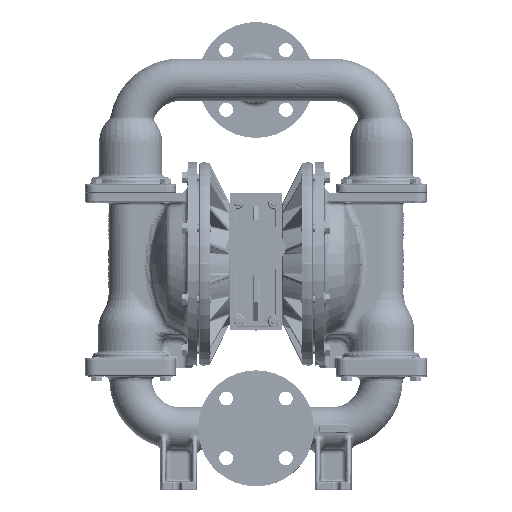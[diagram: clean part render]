
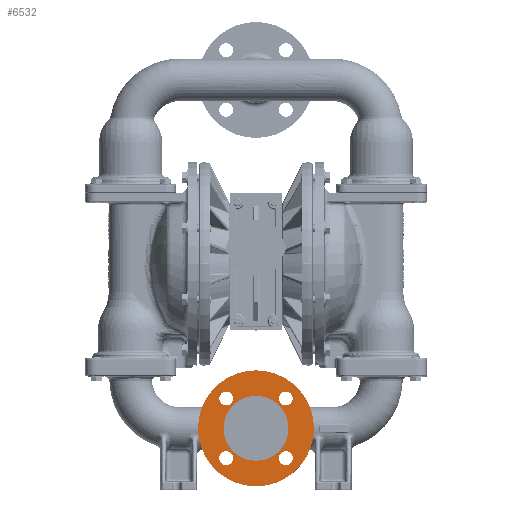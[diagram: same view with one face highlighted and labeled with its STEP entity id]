
A CAD part, top view. The second image highlights one B-rep face of the part: STEP entity #6532.
In plain terms, the highlighted planar face has unit normal (0, 0, 1).
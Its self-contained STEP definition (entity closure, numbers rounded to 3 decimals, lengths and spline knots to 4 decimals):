
#2410 = DIRECTION ( 'NONE',  ( 0., 0., -1. ) ) ;
#6532 = ADVANCED_FACE ( 'NONE', ( #181906, #471082, #264552, #352632, #305831, #520656 ), #396658, .F. ) ;
#13275 = EDGE_CURVE ( 'NONE', #73109, #472273, #33623, .T. ) ;
#17639 = CIRCLE ( 'NONE', #466289, 0.355 ) ;
#23122 = CARTESIAN_POINT ( 'NONE',  ( -1.5203, -9.9053, 4.75 ) ) ;
#23217 = CARTESIAN_POINT ( 'NONE',  ( 0., -8.385, 4.75 ) ) ;
#25607 = CARTESIAN_POINT ( 'NONE',  ( -1.8753, -9.9053, 4.75 ) ) ;
#27357 = CIRCLE ( 'NONE', #353051, 0.355 ) ;
#30727 = EDGE_LOOP ( 'NONE', ( #445862, #349185 ) ) ;
#33058 = AXIS2_PLACEMENT_3D ( 'NONE', #379927, #338614, #344069 ) ;
#33623 = CIRCLE ( 'NONE', #51388, 0.355 ) ;
#43963 = ORIENTED_EDGE ( 'NONE', *, *, #375843, .T. ) ;
#46119 = EDGE_LOOP ( 'NONE', ( #293433, #444504 ) ) ;
#49192 = DIRECTION ( 'NONE',  ( -1., 0., 0. ) ) ;
#51359 = VERTEX_POINT ( 'NONE', #339301 ) ;
#51388 = AXIS2_PLACEMENT_3D ( 'NONE', #443529, #110188, #531679 ) ;
#57549 = AXIS2_PLACEMENT_3D ( 'NONE', #247687, #2410, #498284 ) ;
#58720 = CARTESIAN_POINT ( 'NONE',  ( 0., -10.04, 4.75 ) ) ;
#67132 = VERTEX_POINT ( 'NONE', #483928 ) ;
#67276 = DIRECTION ( 'NONE',  ( 0., 1., 0. ) ) ;
#68046 = CARTESIAN_POINT ( 'NONE',  ( -1.1653, -6.8647, 4.75 ) ) ;
#69624 = CIRCLE ( 'NONE', #412494, 0.355 ) ;
#73109 = VERTEX_POINT ( 'NONE', #68046 ) ;
#73530 = EDGE_CURVE ( 'NONE', #334786, #442199, #218153, .T. ) ;
#74258 = CARTESIAN_POINT ( 'NONE',  ( -1.8753, -6.8647, 4.75 ) ) ;
#77476 = DIRECTION ( 'NONE',  ( 0., 0., -1. ) ) ;
#96001 = CARTESIAN_POINT ( 'NONE',  ( 1.5203, -6.8647, 4.75 ) ) ;
#96122 = VERTEX_POINT ( 'NONE', #444668 ) ;
#103589 = CIRCLE ( 'NONE', #297023, 0.355 ) ;
#110188 = DIRECTION ( 'NONE',  ( 0., 0., -1. ) ) ;
#121378 = DIRECTION ( 'NONE',  ( -1., 0., 0. ) ) ;
#121637 = DIRECTION ( 'NONE',  ( 0., 0., -1. ) ) ;
#128691 = CARTESIAN_POINT ( 'NONE',  ( 1.1653, -9.9053, 4.75 ) ) ;
#129130 = DIRECTION ( 'NONE',  ( 0., 0., -1. ) ) ;
#131699 = EDGE_LOOP ( 'NONE', ( #401268, #443308 ) ) ;
#135352 = CARTESIAN_POINT ( 'NONE',  ( 1.1653, -6.8647, 4.75 ) ) ;
#141179 = ORIENTED_EDGE ( 'NONE', *, *, #144148, .T. ) ;
#144148 = EDGE_CURVE ( 'NONE', #357148, #404570, #17639, .T. ) ;
#147556 = AXIS2_PLACEMENT_3D ( 'NONE', #336350, #77476, #501610 ) ;
#169148 = CARTESIAN_POINT ( 'NONE',  ( 0., -8.385, 4.75 ) ) ;
#174549 = DIRECTION ( 'NONE',  ( 0., 1., 0. ) ) ;
#181906 = FACE_OUTER_BOUND ( 'NONE', #218942, .T. ) ;
#190958 = CARTESIAN_POINT ( 'NONE',  ( 1.5203, -9.9053, 4.75 ) ) ;
#191820 = AXIS2_PLACEMENT_3D ( 'NONE', #169148, #383842, #174549 ) ;
#199807 = EDGE_CURVE ( 'NONE', #455261, #67132, #220240, .T. ) ;
#204378 = CARTESIAN_POINT ( 'NONE',  ( 0., -8.385, 4.75 ) ) ;
#205523 = VERTEX_POINT ( 'NONE', #367033 ) ;
#211442 = ORIENTED_EDGE ( 'NONE', *, *, #335074, .T. ) ;
#211789 = EDGE_CURVE ( 'NONE', #96122, #239415, #523517, .T. ) ;
#214003 = DIRECTION ( 'NONE',  ( 0., 0., -1. ) ) ;
#216712 = EDGE_CURVE ( 'NONE', #334786, #442199, #314665, .T. ) ;
#218153 = CIRCLE ( 'NONE', #191820, 1.655 ) ;
#218610 = CARTESIAN_POINT ( 'NONE',  ( -1.5203, -9.9053, 4.75 ) ) ;
#218942 = EDGE_LOOP ( 'NONE', ( #287853, #320499 ) ) ;
#220240 = CIRCLE ( 'NONE', #299638, 0.355 ) ;
#239415 = VERTEX_POINT ( 'NONE', #135352 ) ;
#247687 = CARTESIAN_POINT ( 'NONE',  ( 1.5203, -6.8647, 4.75 ) ) ;
#251493 = EDGE_LOOP ( 'NONE', ( #317938, #43963 ) ) ;
#264552 = FACE_BOUND ( 'NONE', #251493, .T. ) ;
#275656 = AXIS2_PLACEMENT_3D ( 'NONE', #204378, #121637, #372324 ) ;
#287853 = ORIENTED_EDGE ( 'NONE', *, *, #414424, .F. ) ;
#287880 = EDGE_LOOP ( 'NONE', ( #141179, #211442 ) ) ;
#289479 = DIRECTION ( 'NONE',  ( 0., 0., -1. ) ) ;
#293433 = ORIENTED_EDGE ( 'NONE', *, *, #73530, .F. ) ;
#297023 = AXIS2_PLACEMENT_3D ( 'NONE', #96001, #129130, #49192 ) ;
#298183 = AXIS2_PLACEMENT_3D ( 'NONE', #349887, #517935, #473825 ) ;
#299638 = AXIS2_PLACEMENT_3D ( 'NONE', #23122, #289479, #121378 ) ;
#305831 = FACE_BOUND ( 'NONE', #131699, .T. ) ;
#314665 = CIRCLE ( 'NONE', #33058, 1.655 ) ;
#317938 = ORIENTED_EDGE ( 'NONE', *, *, #211789, .T. ) ;
#320499 = ORIENTED_EDGE ( 'NONE', *, *, #518050, .F. ) ;
#334786 = VERTEX_POINT ( 'NONE', #480820 ) ;
#335074 = EDGE_CURVE ( 'NONE', #404570, #357148, #69624, .T. ) ;
#336350 = CARTESIAN_POINT ( 'NONE',  ( -1.5203, -6.8647, 4.75 ) ) ;
#338614 = DIRECTION ( 'NONE',  ( 0., 0., -1. ) ) ;
#339301 = CARTESIAN_POINT ( 'NONE',  ( 0., -11.34, 4.75 ) ) ;
#339869 = DIRECTION ( 'NONE',  ( 1., 0., 0. ) ) ;
#344069 = DIRECTION ( 'NONE',  ( 0., 1., 0. ) ) ;
#349185 = ORIENTED_EDGE ( 'NONE', *, *, #463713, .T. ) ;
#349887 = CARTESIAN_POINT ( 'NONE',  ( 0., -8.385, 4.75 ) ) ;
#352632 = FACE_BOUND ( 'NONE', #287880, .T. ) ;
#353051 = AXIS2_PLACEMENT_3D ( 'NONE', #218610, #386645, #339869 ) ;
#357148 = VERTEX_POINT ( 'NONE', #373121 ) ;
#358942 = DIRECTION ( 'NONE',  ( -1., 0., 0. ) ) ;
#365834 = AXIS2_PLACEMENT_3D ( 'NONE', #23217, #403368, #67276 ) ;
#367033 = CARTESIAN_POINT ( 'NONE',  ( 0., -5.43, 4.75 ) ) ;
#372324 = DIRECTION ( 'NONE',  ( 0., -1., 0. ) ) ;
#373121 = CARTESIAN_POINT ( 'NONE',  ( 1.8753, -9.9053, 4.75 ) ) ;
#375843 = EDGE_CURVE ( 'NONE', #239415, #96122, #103589, .T. ) ;
#379927 = CARTESIAN_POINT ( 'NONE',  ( 0., -8.385, 4.75 ) ) ;
#383842 = DIRECTION ( 'NONE',  ( 0., 0., 1. ) ) ;
#386645 = DIRECTION ( 'NONE',  ( 0., 0., -1. ) ) ;
#392247 = CIRCLE ( 'NONE', #365834, 2.955 ) ;
#396658 = PLANE ( 'NONE',  #298183 ) ;
#401268 = ORIENTED_EDGE ( 'NONE', *, *, #504603, .T. ) ;
#403368 = DIRECTION ( 'NONE',  ( 0., 0., -1. ) ) ;
#404570 = VERTEX_POINT ( 'NONE', #128691 ) ;
#412494 = AXIS2_PLACEMENT_3D ( 'NONE', #190958, #477510, #358942 ) ;
#414424 = EDGE_CURVE ( 'NONE', #51359, #205523, #425025, .T. ) ;
#417876 = DIRECTION ( 'NONE',  ( 1., 0., 0. ) ) ;
#425025 = CIRCLE ( 'NONE', #275656, 2.955 ) ;
#437684 = CIRCLE ( 'NONE', #147556, 0.355 ) ;
#442199 = VERTEX_POINT ( 'NONE', #58720 ) ;
#443308 = ORIENTED_EDGE ( 'NONE', *, *, #199807, .T. ) ;
#443529 = CARTESIAN_POINT ( 'NONE',  ( -1.5203, -6.8647, 4.75 ) ) ;
#444504 = ORIENTED_EDGE ( 'NONE', *, *, #216712, .T. ) ;
#444668 = CARTESIAN_POINT ( 'NONE',  ( 1.8753, -6.8647, 4.75 ) ) ;
#445862 = ORIENTED_EDGE ( 'NONE', *, *, #13275, .T. ) ;
#455261 = VERTEX_POINT ( 'NONE', #25607 ) ;
#461904 = CARTESIAN_POINT ( 'NONE',  ( 1.5203, -9.9053, 4.75 ) ) ;
#463713 = EDGE_CURVE ( 'NONE', #472273, #73109, #437684, .T. ) ;
#466289 = AXIS2_PLACEMENT_3D ( 'NONE', #461904, #214003, #417876 ) ;
#471082 = FACE_BOUND ( 'NONE', #46119, .T. ) ;
#472273 = VERTEX_POINT ( 'NONE', #74258 ) ;
#473825 = DIRECTION ( 'NONE',  ( 0., -1., 0. ) ) ;
#477510 = DIRECTION ( 'NONE',  ( 0., 0., -1. ) ) ;
#480820 = CARTESIAN_POINT ( 'NONE',  ( 0., -6.73, 4.75 ) ) ;
#483928 = CARTESIAN_POINT ( 'NONE',  ( -1.1653, -9.9053, 4.75 ) ) ;
#498284 = DIRECTION ( 'NONE',  ( 1., 0., 0. ) ) ;
#501610 = DIRECTION ( 'NONE',  ( -1., 0., 0. ) ) ;
#504603 = EDGE_CURVE ( 'NONE', #67132, #455261, #27357, .T. ) ;
#517935 = DIRECTION ( 'NONE',  ( 0., 0., -1. ) ) ;
#518050 = EDGE_CURVE ( 'NONE', #205523, #51359, #392247, .T. ) ;
#520656 = FACE_BOUND ( 'NONE', #30727, .T. ) ;
#523517 = CIRCLE ( 'NONE', #57549, 0.355 ) ;
#531679 = DIRECTION ( 'NONE',  ( 1., 0., 0. ) ) ;
